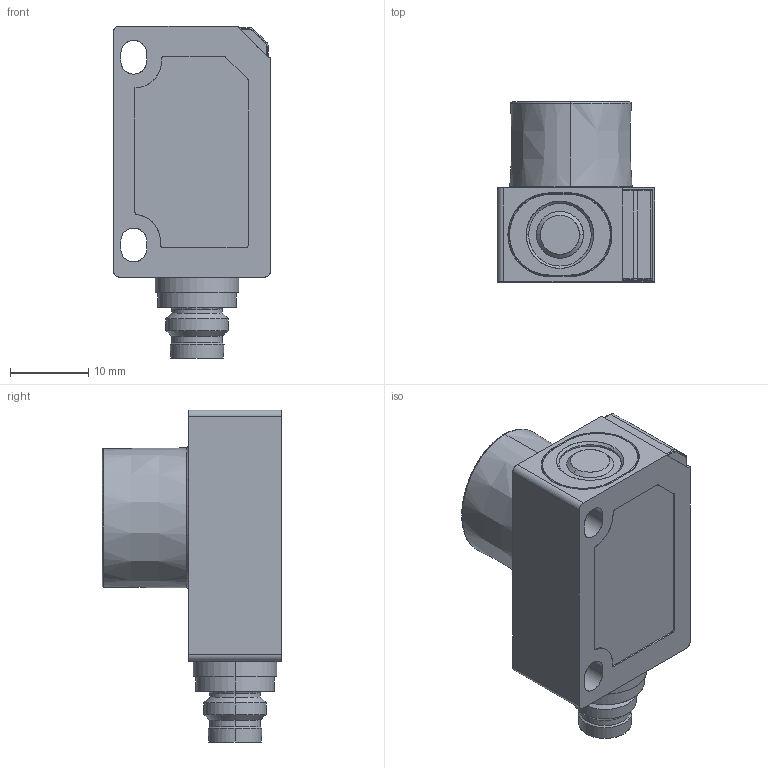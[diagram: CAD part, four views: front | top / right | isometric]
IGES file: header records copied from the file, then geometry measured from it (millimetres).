
Start section: SolidWorks IGES file using analytic representation for surfaces
Global section: file name: Z:\Projekte\Kunststoff-Blechteile\Zeichnungen\Bibliothek Inventor\3D Solids\zws\IGS\zws-25_CX_QS.igs; native system: SolidWorks 2024; preprocessor: SolidWorks 2024; author: Oliver Liedtke; date: 250425.121914; units: millimetre
Bounding box: 20.11 x 23 x 42.45 mm (x, y, z)
Surface area: 3808.7 mm2 (no closed solid volume)
Topology: 0 solids, 0 shells, 157 faces, 1690 edges, 1682 vertices
Faces by surface type: revolution 87, bspline 70
